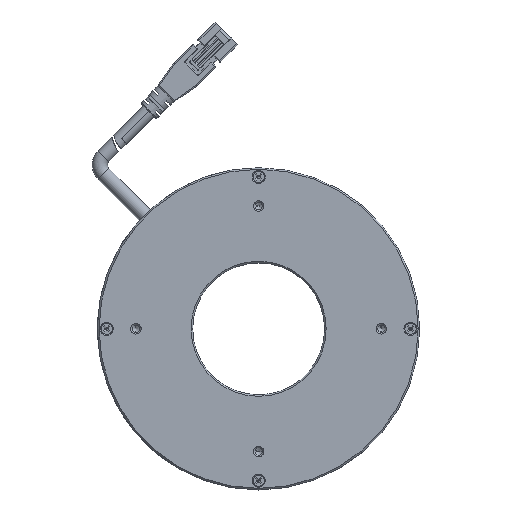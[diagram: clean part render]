
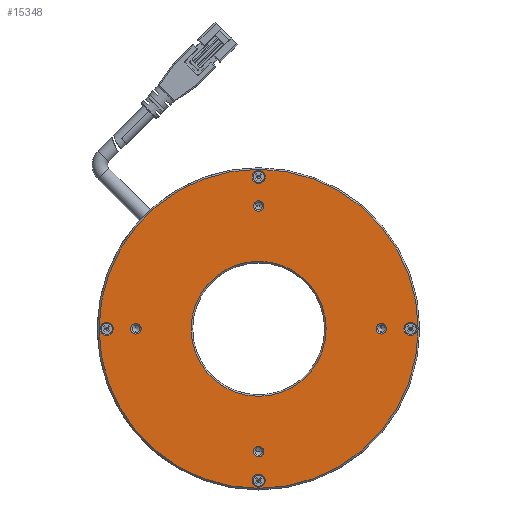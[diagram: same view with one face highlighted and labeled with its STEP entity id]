
A CAD part, top view. The second image highlights one B-rep face of the part: STEP entity #15348.
In plain terms, the highlighted planar face has unit normal (0, 0, 1).
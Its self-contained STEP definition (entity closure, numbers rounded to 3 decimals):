
#14102=CARTESIAN_POINT('',(49.5,0.,2.));
#14103=DIRECTION('',(0.,0.,-1.));
#14104=DIRECTION('',(-1.,0.,0.));
#14105=AXIS2_PLACEMENT_3D('',#14102,#14103,#14104);
#14107=CARTESIAN_POINT('',(49.5,0.,2.));
#14108=DIRECTION('',(0.,0.,-1.));
#14109=DIRECTION('',(1.,0.,0.));
#14110=AXIS2_PLACEMENT_3D('',#14107,#14108,#14109);
#14112=CARTESIAN_POINT('',(0.,0.,2.));
#14113=DIRECTION('',(0.,0.,-1.));
#14114=DIRECTION('',(0.,1.,0.));
#14115=AXIS2_PLACEMENT_3D('',#14112,#14113,#14114);
#14117=CARTESIAN_POINT('',(0.,0.,2.));
#14118=DIRECTION('',(0.,0.,-1.));
#14119=DIRECTION('',(0.,-1.,0.));
#14120=AXIS2_PLACEMENT_3D('',#14117,#14118,#14119);
#14122=CARTESIAN_POINT('',(-40.,0.,2.));
#14123=DIRECTION('',(0.,0.,-1.));
#14124=DIRECTION('',(0.,-1.,0.));
#14125=AXIS2_PLACEMENT_3D('',#14122,#14123,#14124);
#14127=CARTESIAN_POINT('',(-40.,0.,2.));
#14128=DIRECTION('',(0.,0.,-1.));
#14129=DIRECTION('',(0.,1.,0.));
#14130=AXIS2_PLACEMENT_3D('',#14127,#14128,#14129);
#14132=CARTESIAN_POINT('',(0.,-40.,2.));
#14133=DIRECTION('',(0.,0.,-1.));
#14134=DIRECTION('',(1.,0.,0.));
#14135=AXIS2_PLACEMENT_3D('',#14132,#14133,#14134);
#14137=CARTESIAN_POINT('',(0.,-40.,2.));
#14138=DIRECTION('',(0.,0.,-1.));
#14139=DIRECTION('',(-1.,0.,0.));
#14140=AXIS2_PLACEMENT_3D('',#14137,#14138,#14139);
#14142=CARTESIAN_POINT('',(40.,0.,2.));
#14143=DIRECTION('',(0.,0.,-1.));
#14144=DIRECTION('',(0.,1.,0.));
#14145=AXIS2_PLACEMENT_3D('',#14142,#14143,#14144);
#14147=CARTESIAN_POINT('',(40.,0.,2.));
#14148=DIRECTION('',(0.,0.,-1.));
#14149=DIRECTION('',(0.,-1.,0.));
#14150=AXIS2_PLACEMENT_3D('',#14147,#14148,#14149);
#14152=CARTESIAN_POINT('',(0.,40.,2.));
#14153=DIRECTION('',(0.,0.,-1.));
#14154=DIRECTION('',(-1.,0.,0.));
#14155=AXIS2_PLACEMENT_3D('',#14152,#14153,#14154);
#14157=CARTESIAN_POINT('',(0.,40.,2.));
#14158=DIRECTION('',(0.,0.,-1.));
#14159=DIRECTION('',(1.,0.,0.));
#14160=AXIS2_PLACEMENT_3D('',#14157,#14158,#14159);
#14162=CARTESIAN_POINT('',(0.,49.5,2.));
#14163=DIRECTION('',(0.,0.,-1.));
#14164=DIRECTION('',(0.,-1.,0.));
#14165=AXIS2_PLACEMENT_3D('',#14162,#14163,#14164);
#14167=CARTESIAN_POINT('',(0.,49.5,2.));
#14168=DIRECTION('',(0.,0.,-1.));
#14169=DIRECTION('',(0.,1.,0.));
#14170=AXIS2_PLACEMENT_3D('',#14167,#14168,#14169);
#14172=CARTESIAN_POINT('',(-49.5,0.,2.));
#14173=DIRECTION('',(0.,0.,-1.));
#14174=DIRECTION('',(1.,0.,0.));
#14175=AXIS2_PLACEMENT_3D('',#14172,#14173,#14174);
#14177=CARTESIAN_POINT('',(-49.5,0.,2.));
#14178=DIRECTION('',(0.,0.,-1.));
#14179=DIRECTION('',(-1.,0.,0.));
#14180=AXIS2_PLACEMENT_3D('',#14177,#14178,#14179);
#14182=CARTESIAN_POINT('',(0.,-49.5,2.));
#14183=DIRECTION('',(0.,0.,-1.));
#14184=DIRECTION('',(0.,1.,0.));
#14185=AXIS2_PLACEMENT_3D('',#14182,#14183,#14184);
#14187=CARTESIAN_POINT('',(0.,-49.5,2.));
#14188=DIRECTION('',(0.,0.,-1.));
#14189=DIRECTION('',(0.,-1.,0.));
#14190=AXIS2_PLACEMENT_3D('',#14187,#14188,#14189);
#14192=CARTESIAN_POINT('',(0.,0.,2.));
#14193=DIRECTION('',(0.,0.,1.));
#14194=DIRECTION('',(0.,-1.,0.));
#14195=AXIS2_PLACEMENT_3D('',#14192,#14193,#14194);
#14197=CARTESIAN_POINT('',(0.,0.,2.));
#14198=DIRECTION('',(0.,0.,1.));
#14199=DIRECTION('',(0.,1.,0.));
#14200=AXIS2_PLACEMENT_3D('',#14197,#14198,#14199);
#15116=CARTESIAN_POINT('',(0.,52.,2.));
#15117=CARTESIAN_POINT('',(0.,-52.,2.));
#15118=VERTEX_POINT('',#15116);
#15119=VERTEX_POINT('',#15117);
#15120=CARTESIAN_POINT('',(0.,-51.65,2.));
#15121=CARTESIAN_POINT('',(0.,-47.35,2.));
#15122=VERTEX_POINT('',#15120);
#15123=VERTEX_POINT('',#15121);
#15124=CARTESIAN_POINT('',(-51.65,0.,2.));
#15125=CARTESIAN_POINT('',(-47.35,0.,2.));
#15126=VERTEX_POINT('',#15124);
#15127=VERTEX_POINT('',#15125);
#15128=CARTESIAN_POINT('',(0.,51.65,2.));
#15129=CARTESIAN_POINT('',(0.,47.35,2.));
#15130=VERTEX_POINT('',#15128);
#15131=VERTEX_POINT('',#15129);
#15132=CARTESIAN_POINT('',(1.7,40.,2.));
#15133=CARTESIAN_POINT('',(-1.7,40.,2.));
#15134=VERTEX_POINT('',#15132);
#15135=VERTEX_POINT('',#15133);
#15136=CARTESIAN_POINT('',(40.,-1.7,2.));
#15137=CARTESIAN_POINT('',(40.,1.7,2.));
#15138=VERTEX_POINT('',#15136);
#15139=VERTEX_POINT('',#15137);
#15140=CARTESIAN_POINT('',(-1.7,-40.,2.));
#15141=CARTESIAN_POINT('',(1.7,-40.,2.));
#15142=VERTEX_POINT('',#15140);
#15143=VERTEX_POINT('',#15141);
#15144=CARTESIAN_POINT('',(-40.,1.7,2.));
#15145=CARTESIAN_POINT('',(-40.,-1.7,2.));
#15146=VERTEX_POINT('',#15144);
#15147=VERTEX_POINT('',#15145);
#15148=CARTESIAN_POINT('',(0.,-22.,2.));
#15149=CARTESIAN_POINT('',(0.,22.,2.));
#15150=VERTEX_POINT('',#15148);
#15151=VERTEX_POINT('',#15149);
#15152=CARTESIAN_POINT('',(51.65,0.,2.));
#15153=CARTESIAN_POINT('',(47.35,0.,2.));
#15154=VERTEX_POINT('',#15152);
#15155=VERTEX_POINT('',#15153);
#15283=CARTESIAN_POINT('',(0.,0.,2.));
#15284=DIRECTION('',(0.,0.,-1.));
#15285=DIRECTION('',(0.,-1.,0.));
#15286=AXIS2_PLACEMENT_3D('',#15283,#15284,#15285);
#15287=PLANE('',#15286);
#15289=ORIENTED_EDGE('',*,*,#15288,.F.);
#15291=ORIENTED_EDGE('',*,*,#15290,.F.);
#15292=EDGE_LOOP('',(#15289,#15291));
#15293=FACE_OUTER_BOUND('',#15292,.F.);
#15295=ORIENTED_EDGE('',*,*,#15294,.F.);
#15297=ORIENTED_EDGE('',*,*,#15296,.F.);
#15298=EDGE_LOOP('',(#15295,#15297));
#15299=FACE_BOUND('',#15298,.F.);
#15301=ORIENTED_EDGE('',*,*,#15300,.F.);
#15303=ORIENTED_EDGE('',*,*,#15302,.F.);
#15304=EDGE_LOOP('',(#15301,#15303));
#15305=FACE_BOUND('',#15304,.F.);
#15307=ORIENTED_EDGE('',*,*,#15306,.F.);
#15309=ORIENTED_EDGE('',*,*,#15308,.F.);
#15310=EDGE_LOOP('',(#15307,#15309));
#15311=FACE_BOUND('',#15310,.F.);
#15313=ORIENTED_EDGE('',*,*,#15312,.F.);
#15315=ORIENTED_EDGE('',*,*,#15314,.F.);
#15316=EDGE_LOOP('',(#15313,#15315));
#15317=FACE_BOUND('',#15316,.F.);
#15319=ORIENTED_EDGE('',*,*,#15318,.F.);
#15321=ORIENTED_EDGE('',*,*,#15320,.F.);
#15322=EDGE_LOOP('',(#15319,#15321));
#15323=FACE_BOUND('',#15322,.F.);
#15325=ORIENTED_EDGE('',*,*,#15324,.F.);
#15327=ORIENTED_EDGE('',*,*,#15326,.F.);
#15328=EDGE_LOOP('',(#15325,#15327));
#15329=FACE_BOUND('',#15328,.F.);
#15331=ORIENTED_EDGE('',*,*,#15330,.F.);
#15333=ORIENTED_EDGE('',*,*,#15332,.F.);
#15334=EDGE_LOOP('',(#15331,#15333));
#15335=FACE_BOUND('',#15334,.F.);
#15337=ORIENTED_EDGE('',*,*,#15336,.F.);
#15339=ORIENTED_EDGE('',*,*,#15338,.F.);
#15340=EDGE_LOOP('',(#15337,#15339));
#15341=FACE_BOUND('',#15340,.F.);
#15343=ORIENTED_EDGE('',*,*,#15342,.F.);
#15345=ORIENTED_EDGE('',*,*,#15344,.F.);
#15346=EDGE_LOOP('',(#15343,#15345));
#15347=FACE_BOUND('',#15346,.F.);
#15348=ADVANCED_FACE('',(#15293,#15299,#15305,#15311,#15317,#15323,#15329,
#15335,#15341,#15347),#15287,.F.);
#14106=CIRCLE('',#14105,2.15);
#14111=CIRCLE('',#14110,2.15);
#14116=CIRCLE('',#14115,22.);
#14121=CIRCLE('',#14120,22.);
#14126=CIRCLE('',#14125,1.7);
#14131=CIRCLE('',#14130,1.7);
#14136=CIRCLE('',#14135,1.7);
#14141=CIRCLE('',#14140,1.7);
#14146=CIRCLE('',#14145,1.7);
#14151=CIRCLE('',#14150,1.7);
#14156=CIRCLE('',#14155,1.7);
#14161=CIRCLE('',#14160,1.7);
#14166=CIRCLE('',#14165,2.15);
#14171=CIRCLE('',#14170,2.15);
#14176=CIRCLE('',#14175,2.15);
#14181=CIRCLE('',#14180,2.15);
#14186=CIRCLE('',#14185,2.15);
#14191=CIRCLE('',#14190,2.15);
#14196=CIRCLE('',#14195,52.);
#14201=CIRCLE('',#14200,52.);
#15288=EDGE_CURVE('',#15119,#15118,#14196,.T.);
#15290=EDGE_CURVE('',#15118,#15119,#14201,.T.);
#15294=EDGE_CURVE('',#15151,#15150,#14116,.T.);
#15296=EDGE_CURVE('',#15150,#15151,#14121,.T.);
#15300=EDGE_CURVE('',#15147,#15146,#14126,.T.);
#15302=EDGE_CURVE('',#15146,#15147,#14131,.T.);
#15306=EDGE_CURVE('',#15143,#15142,#14136,.T.);
#15308=EDGE_CURVE('',#15142,#15143,#14141,.T.);
#15312=EDGE_CURVE('',#15139,#15138,#14146,.T.);
#15314=EDGE_CURVE('',#15138,#15139,#14151,.T.);
#15318=EDGE_CURVE('',#15135,#15134,#14156,.T.);
#15320=EDGE_CURVE('',#15134,#15135,#14161,.T.);
#15324=EDGE_CURVE('',#15131,#15130,#14166,.T.);
#15326=EDGE_CURVE('',#15130,#15131,#14171,.T.);
#15330=EDGE_CURVE('',#15127,#15126,#14176,.T.);
#15332=EDGE_CURVE('',#15126,#15127,#14181,.T.);
#15336=EDGE_CURVE('',#15123,#15122,#14186,.T.);
#15338=EDGE_CURVE('',#15122,#15123,#14191,.T.);
#15342=EDGE_CURVE('',#15155,#15154,#14106,.T.);
#15344=EDGE_CURVE('',#15154,#15155,#14111,.T.);
